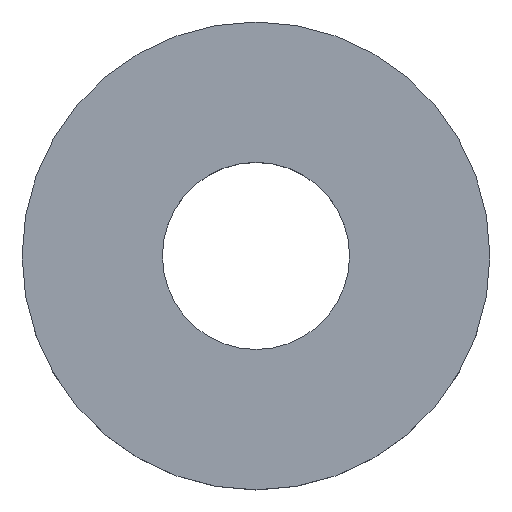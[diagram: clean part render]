
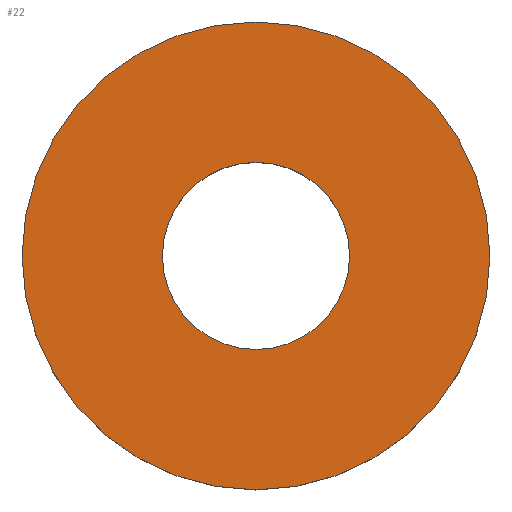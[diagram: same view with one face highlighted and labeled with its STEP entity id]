
A CAD part, top view. The second image highlights one B-rep face of the part: STEP entity #22.
In plain terms, the highlighted planar face has unit normal (0, 0, 1).
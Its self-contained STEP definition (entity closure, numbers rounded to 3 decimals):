
#7 = FACE_BOUND ( 'NONE', #173, .T. ) ;
#9 = ORIENTED_EDGE ( 'NONE', *, *, #27, .F. ) ;
#17 = CIRCLE ( 'NONE', #156, 4. ) ;
#21 = VERTEX_POINT ( 'NONE', #155 ) ;
#22 = ADVANCED_FACE ( 'NONE', ( #108, #7 ), #172, .T. ) ;
#27 = EDGE_CURVE ( 'NONE', #21, #177, #222, .T. ) ;
#28 = CARTESIAN_POINT ( 'NONE',  ( 0., 0., 3. ) ) ;
#30 = CIRCLE ( 'NONE', #152, 10. ) ;
#38 = VERTEX_POINT ( 'NONE', #178 ) ;
#49 = DIRECTION ( 'NONE',  ( 0., 0., 1. ) ) ;
#71 = DIRECTION ( 'NONE',  ( 1., 0., 0. ) ) ;
#77 = DIRECTION ( 'NONE',  ( 1., 0., 0. ) ) ;
#84 = EDGE_CURVE ( 'NONE', #177, #21, #17, .T. ) ;
#86 = DIRECTION ( 'NONE',  ( 0., 0., 1. ) ) ;
#89 = CARTESIAN_POINT ( 'NONE',  ( 0., 0., 3. ) ) ;
#108 = FACE_OUTER_BOUND ( 'NONE', #109, .T. ) ;
#109 = EDGE_LOOP ( 'NONE', ( #120, #215 ) ) ;
#120 = ORIENTED_EDGE ( 'NONE', *, *, #150, .T. ) ;
#122 = VERTEX_POINT ( 'NONE', #204 ) ;
#124 = DIRECTION ( 'NONE',  ( 1., 0., 0. ) ) ;
#127 = CARTESIAN_POINT ( 'NONE',  ( -4., 0., 3. ) ) ;
#129 = CARTESIAN_POINT ( 'NONE',  ( 0., 0., 3. ) ) ;
#136 = CARTESIAN_POINT ( 'NONE',  ( 0., 0., 3. ) ) ;
#137 = EDGE_CURVE ( 'NONE', #38, #122, #30, .T. ) ;
#150 = EDGE_CURVE ( 'NONE', #122, #38, #201, .T. ) ;
#152 = AXIS2_PLACEMENT_3D ( 'NONE', #199, #229, #124 ) ;
#155 = CARTESIAN_POINT ( 'NONE',  ( 4., 0., 3. ) ) ;
#156 = AXIS2_PLACEMENT_3D ( 'NONE', #28, #86, #217 ) ;
#172 = PLANE ( 'NONE',  #196 ) ;
#173 = EDGE_LOOP ( 'NONE', ( #192, #9 ) ) ;
#177 = VERTEX_POINT ( 'NONE', #127 ) ;
#178 = CARTESIAN_POINT ( 'NONE',  ( 10., 0., 3. ) ) ;
#192 = ORIENTED_EDGE ( 'NONE', *, *, #84, .F. ) ;
#194 = DIRECTION ( 'NONE',  ( 1., 0., 0. ) ) ;
#196 = AXIS2_PLACEMENT_3D ( 'NONE', #89, #49, #194 ) ;
#197 = DIRECTION ( 'NONE',  ( 0., 0., 1. ) ) ;
#199 = CARTESIAN_POINT ( 'NONE',  ( 0., 0., 3. ) ) ;
#200 = AXIS2_PLACEMENT_3D ( 'NONE', #136, #197, #71 ) ;
#201 = CIRCLE ( 'NONE', #242, 10. ) ;
#204 = CARTESIAN_POINT ( 'NONE',  ( -10., 0., 3. ) ) ;
#215 = ORIENTED_EDGE ( 'NONE', *, *, #137, .T. ) ;
#217 = DIRECTION ( 'NONE',  ( 1., 0., 0. ) ) ;
#222 = CIRCLE ( 'NONE', #200, 4. ) ;
#226 = DIRECTION ( 'NONE',  ( 0., 0., 1. ) ) ;
#229 = DIRECTION ( 'NONE',  ( 0., 0., 1. ) ) ;
#242 = AXIS2_PLACEMENT_3D ( 'NONE', #129, #226, #77 ) ;
